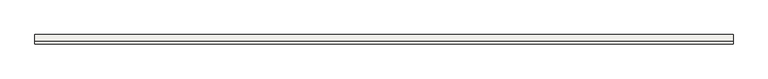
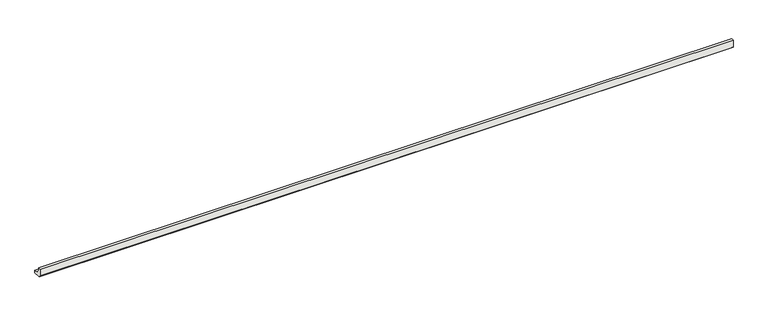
"""IFC4 building model written with IfcOpenShell, lengths in millimetres: slab geometry, ROSA GRES_188 : Pieza 188_Tresor_Bali_Anti-Slip."""

from ifc_helpers import new_model, si_unit, point, frame, frame_2d, origin, place, context, project, spatial, polyline, circle_curve, trimmed, segment, composite_curve, outline, extrude, source, transform, mapped, element, save


def slab_60bb6a4b(model_context):
    return source(origin(), model_context, "Body", "SweptSolid", [
        extrude(outline(composite_curve([segment(polyline([(0.0, 8.7114978), (0.0, 40.0), (9.9734114, 40.0)]), True, "CONTINUOUS"), segment(trimmed(circle_curve(frame_2d((39.9955547, 39.9955547)), 30.0221435), [point((9.9734114, 40.0))], [point((40.0, 9.9734114))], True, "CARTESIAN"), True, "CONTINUOUS"), segment(polyline([(40.0, 9.9734114), (40.0, 0.0), (8.7114978, 0.0), (0.0, 8.7114978)]), True, "CONTINUOUS")], self_intersect=False)), frame((0.0, 0.0, 0.0), z_axis=(1.0, 0.0, 0.0), x_axis=(0.0, 1.0, 0.0)), (0.0, 0.0, 1.0), 2999.875),
    ])


if __name__ == "__main__":
    model = new_model("IFC4")
    model_context = context("Model", 3, world=origin())
    ifc_project = project(units=[si_unit("LENGTHUNIT", "METRE", prefix="MILLI")], contexts=[model_context])
    site = spatial("IfcSite", under=ifc_project)
    building = spatial("IfcBuilding", under=site)
    placement = place(None, origin())
    slab_shape = slab_60bb6a4b(model_context)
    element("IfcSlab", 1, ObjectType="ROSA GRES_188 : Pieza 188_Tresor_Bali_Anti-Slip", at=placement, inside=building, context=model_context, shape_type="MappedRepresentation", body=[
        mapped(slab_shape, transform((0.0, 0.0, 0.0), x_axis=(1.0, 0.0, 0.0), y_axis=(0.0, 1.0, 0.0), z_axis=(0.0, 0.0, 1.0))),
    ])
    save(model, "model.ifc")
